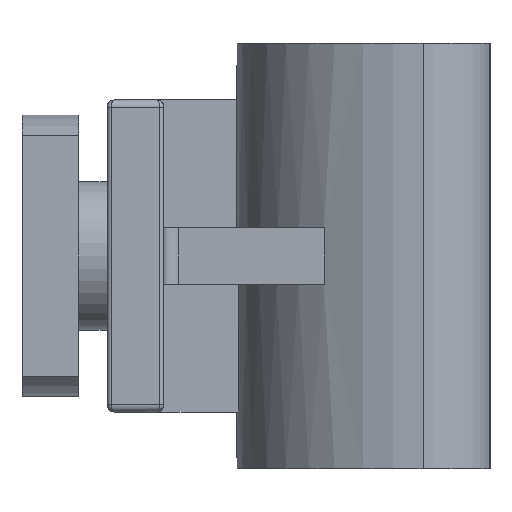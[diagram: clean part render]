
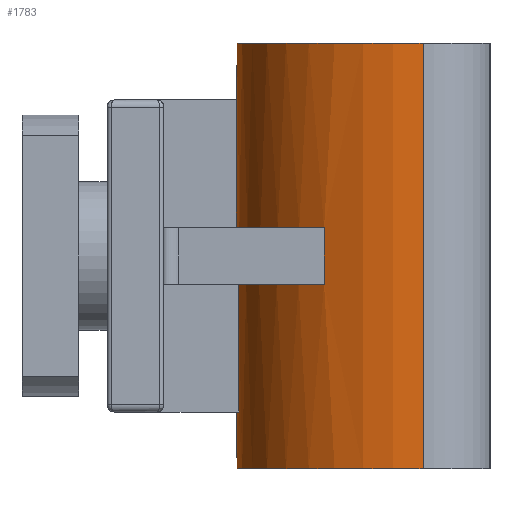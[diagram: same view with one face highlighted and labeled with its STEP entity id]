
A CAD part, front view. The second image highlights one B-rep face of the part: STEP entity #1783.
In plain terms, the highlighted cylindrical face has radius 12.88 mm (diameter 25.76 mm), a partial arc.
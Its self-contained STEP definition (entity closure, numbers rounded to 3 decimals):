
#857=CARTESIAN_POINT('',(41.615,36.384,17.0));
#858=VERTEX_POINT('',#857);
#865=CARTESIAN_POINT('',(41.615,36.384,13.0));
#866=VERTEX_POINT('',#865);
#867=CARTESIAN_POINT('',(41.615,36.384,13.0));
#868=DIRECTION('',(0.0,0.0,1.0));
#869=VECTOR('',#868,4.0);
#870=LINE('',#867,#869);
#871=EDGE_CURVE('',#866,#858,#870,.T.);
#1467=CARTESIAN_POINT('',(35.592,27.384,26.));
#1468=VERTEX_POINT('',#1467);
#1477=CARTESIAN_POINT('',(35.592,27.384,17.0));
#1478=VERTEX_POINT('',#1477);
#1485=CARTESIAN_POINT('',(35.592,27.384,26.));
#1486=DIRECTION('',(0.0,0.0,-1.0));
#1487=VECTOR('',#1486,9.);
#1488=LINE('',#1485,#1487);
#1489=EDGE_CURVE('',#1468,#1478,#1488,.T.);
#1499=CARTESIAN_POINT('',(36.919,31.384,26.));
#1500=VERTEX_POINT('',#1499);
#1507=CARTESIAN_POINT('',(36.919,31.384,17.0));
#1508=VERTEX_POINT('',#1507);
#1509=CARTESIAN_POINT('',(36.919,31.384,17.0));
#1510=DIRECTION('',(0.0,0.0,1.0));
#1511=VECTOR('',#1510,9.);
#1512=LINE('',#1509,#1511);
#1513=EDGE_CURVE('',#1508,#1500,#1512,.T.);
#1556=CARTESIAN_POINT('',(48.316,25.384,17.0));
#1557=DIRECTION('',(0.0,0.0,-1.0));
#1558=DIRECTION('',(0.52,-0.854,0.0));
#1559=AXIS2_PLACEMENT_3D('',#1556,#1557,#1558);
#1560=CIRCLE('',#1559,12.88);
#1561=EDGE_CURVE('',#1508,#858,#1560,.T.);
#1575=CARTESIAN_POINT('',(48.316,25.384,26.));
#1576=DIRECTION('',(0.0,0.0,1.0));
#1577=DIRECTION('',(0.022,1.,0.0));
#1578=AXIS2_PLACEMENT_3D('',#1575,#1576,#1577);
#1579=CIRCLE('',#1578,12.88);
#1580=EDGE_CURVE('',#1500,#1468,#1579,.T.);
#1620=CARTESIAN_POINT('',(35.592,23.384,4.));
#1621=VERTEX_POINT('',#1620);
#1628=CARTESIAN_POINT('',(35.592,23.384,13.0));
#1629=VERTEX_POINT('',#1628);
#1630=CARTESIAN_POINT('',(35.592,23.384,13.0));
#1631=DIRECTION('',(0.0,0.0,-1.0));
#1632=VECTOR('',#1631,9.);
#1633=LINE('',#1630,#1632);
#1634=EDGE_CURVE('',#1629,#1621,#1633,.T.);
#1652=CARTESIAN_POINT('',(35.592,27.384,4.));
#1653=VERTEX_POINT('',#1652);
#1662=CARTESIAN_POINT('',(35.592,27.384,13.0));
#1663=VERTEX_POINT('',#1662);
#1670=CARTESIAN_POINT('',(35.592,27.384,4.));
#1671=DIRECTION('',(0.0,0.0,1.0));
#1672=VECTOR('',#1671,9.);
#1673=LINE('',#1670,#1672);
#1674=EDGE_CURVE('',#1653,#1663,#1673,.T.);
#1685=CARTESIAN_POINT('',(48.316,25.384,4.));
#1686=DIRECTION('',(0.0,0.0,-1.0));
#1687=DIRECTION('',(0.022,1.,0.0));
#1688=AXIS2_PLACEMENT_3D('',#1685,#1686,#1687);
#1689=CIRCLE('',#1688,12.88);
#1690=EDGE_CURVE('',#1621,#1653,#1689,.T.);
#1701=CARTESIAN_POINT('',(48.316,25.384,0.0));
#1702=DIRECTION('',(0.0,0.0,1.0));
#1703=DIRECTION('',(0.022,1.,0.0));
#1704=AXIS2_PLACEMENT_3D('',#1701,#1702,#1703);
#1705=CYLINDRICAL_SURFACE('',#1704,12.88);
#1706=CARTESIAN_POINT('',(48.595,38.261,0.0));
#1707=VERTEX_POINT('',#1706);
#1708=CARTESIAN_POINT('',(48.595,12.507,0.0));
#1709=VERTEX_POINT('',#1708);
#1710=CARTESIAN_POINT('',(48.316,25.384,0.0));
#1711=DIRECTION('',(0.0,0.0,1.0));
#1712=DIRECTION('',(0.022,1.,0.0));
#1713=AXIS2_PLACEMENT_3D('',#1710,#1711,#1712);
#1714=CIRCLE('',#1713,12.88);
#1715=EDGE_CURVE('',#1707,#1709,#1714,.T.);
#1716=ORIENTED_EDGE('',*,*,#1715,.T.);
#1717=CARTESIAN_POINT('',(48.595,12.507,30.0));
#1718=VERTEX_POINT('',#1717);
#1719=CARTESIAN_POINT('',(48.595,12.507,0.0));
#1720=DIRECTION('',(0.0,0.0,1.0));
#1721=VECTOR('',#1720,30.0);
#1722=LINE('',#1719,#1721);
#1723=EDGE_CURVE('',#1709,#1718,#1722,.T.);
#1724=ORIENTED_EDGE('',*,*,#1723,.T.);
#1725=CARTESIAN_POINT('',(48.595,38.261,30.0));
#1726=VERTEX_POINT('',#1725);
#1727=CARTESIAN_POINT('',(48.316,25.384,30.0));
#1728=DIRECTION('',(0.0,0.0,-1.0));
#1729=DIRECTION('',(0.022,1.,0.0));
#1730=AXIS2_PLACEMENT_3D('',#1727,#1728,#1729);
#1731=CIRCLE('',#1730,12.88);
#1732=EDGE_CURVE('',#1718,#1726,#1731,.T.);
#1733=ORIENTED_EDGE('',*,*,#1732,.T.);
#1734=CARTESIAN_POINT('',(48.595,38.261,0.0));
#1735=DIRECTION('',(0.0,0.0,1.0));
#1736=VECTOR('',#1735,30.0);
#1737=LINE('',#1734,#1736);
#1738=EDGE_CURVE('',#1707,#1726,#1737,.T.);
#1739=ORIENTED_EDGE('',*,*,#1738,.F.);
#1740=EDGE_LOOP('',(#1716,#1724,#1733,#1739));
#1741=FACE_OUTER_BOUND('',#1740,.T.);
#1742=ORIENTED_EDGE('',*,*,#1489,.T.);
#1743=CARTESIAN_POINT('',(41.615,14.384,17.0));
#1744=VERTEX_POINT('',#1743);
#1745=CARTESIAN_POINT('',(48.316,25.384,17.0));
#1746=DIRECTION('',(0.0,0.0,-1.0));
#1747=DIRECTION('',(0.52,-0.854,0.0));
#1748=AXIS2_PLACEMENT_3D('',#1745,#1746,#1747);
#1749=CIRCLE('',#1748,12.88);
#1750=EDGE_CURVE('',#1744,#1478,#1749,.T.);
#1751=ORIENTED_EDGE('',*,*,#1750,.F.);
#1752=CARTESIAN_POINT('',(41.615,14.384,13.0));
#1753=VERTEX_POINT('',#1752);
#1754=CARTESIAN_POINT('',(41.615,14.384,13.0));
#1755=DIRECTION('',(0.0,0.0,1.0));
#1756=VECTOR('',#1755,4.0);
#1757=LINE('',#1754,#1756);
#1758=EDGE_CURVE('',#1753,#1744,#1757,.T.);
#1759=ORIENTED_EDGE('',*,*,#1758,.F.);
#1760=CARTESIAN_POINT('',(48.316,25.384,13.0));
#1761=DIRECTION('',(0.0,0.0,1.));
#1762=DIRECTION('',(0.52,0.854,0.0));
#1763=AXIS2_PLACEMENT_3D('',#1760,#1761,#1762);
#1764=CIRCLE('',#1763,12.88);
#1765=EDGE_CURVE('',#1629,#1753,#1764,.T.);
#1766=ORIENTED_EDGE('',*,*,#1765,.F.);
#1767=ORIENTED_EDGE('',*,*,#1634,.T.);
#1768=ORIENTED_EDGE('',*,*,#1690,.T.);
#1769=ORIENTED_EDGE('',*,*,#1674,.T.);
#1770=CARTESIAN_POINT('',(48.316,25.384,13.0));
#1771=DIRECTION('',(0.0,0.0,1.));
#1772=DIRECTION('',(0.52,0.854,0.0));
#1773=AXIS2_PLACEMENT_3D('',#1770,#1771,#1772);
#1774=CIRCLE('',#1773,12.88);
#1775=EDGE_CURVE('',#866,#1663,#1774,.T.);
#1776=ORIENTED_EDGE('',*,*,#1775,.F.);
#1777=ORIENTED_EDGE('',*,*,#871,.T.);
#1778=ORIENTED_EDGE('',*,*,#1561,.F.);
#1779=ORIENTED_EDGE('',*,*,#1513,.T.);
#1780=ORIENTED_EDGE('',*,*,#1580,.T.);
#1781=EDGE_LOOP('',(#1742,#1751,#1759,#1766,#1767,#1768,#1769,#1776,#1777,#1778,#1779,#1780));
#1782=FACE_BOUND('',#1781,.T.);
#1783=ADVANCED_FACE('',(#1741,#1782),#1705,.T.);
